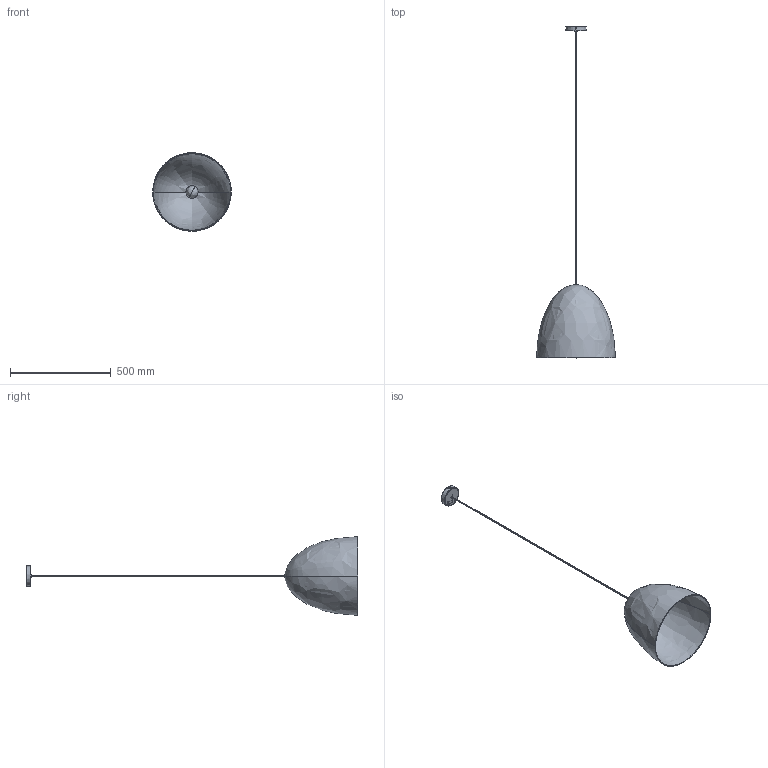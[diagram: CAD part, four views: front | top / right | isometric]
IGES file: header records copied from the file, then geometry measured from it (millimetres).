
Start section: SolidWorks IGES file using analytic representation for surfaces
Global section: file name: D:\Nowodworski\Modele 3D\Lampy\EGG BLACK M 9022\Z³o¿enie EGG M 9022 DLA Asi.IGS; native system: SolidWorks 2017; preprocessor: SolidWorks 2017; author: DELL; date: 190703.133627; units: millimetre
Bounding box: 390 x 1646.65 x 390 mm (x, y, z)
Surface area: 877698.8 mm2 (no closed solid volume)
Topology: 0 solids, 0 shells, 718 faces, 8925 edges, 8887 vertices
Faces by surface type: revolution 428, bspline 290
